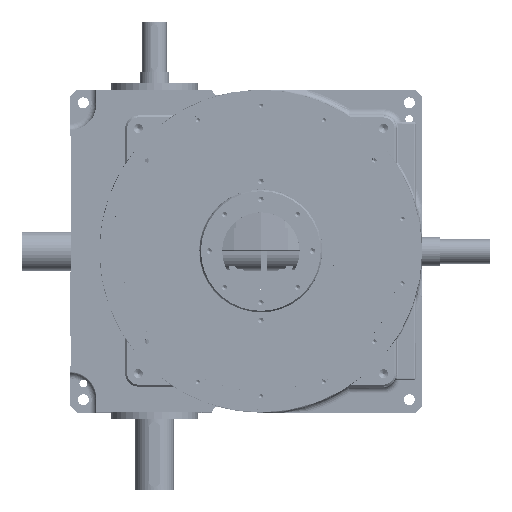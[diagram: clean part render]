
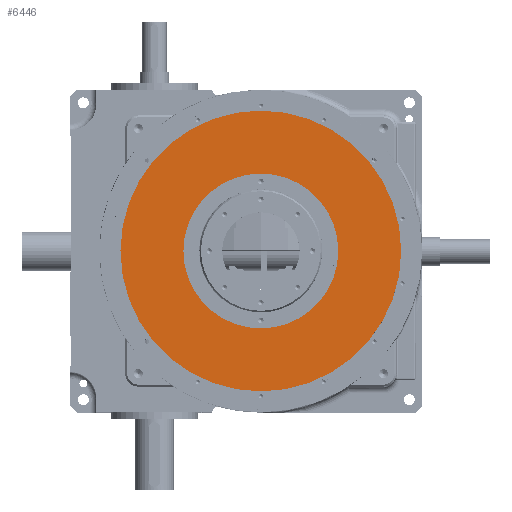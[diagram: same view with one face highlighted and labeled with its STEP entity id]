
A CAD part, top view. The second image highlights one B-rep face of the part: STEP entity #6446.
In plain terms, the highlighted planar face has unit normal (0, 0, 1) as drawn and (0, 1, 0) by its records, which use the part's own axes.
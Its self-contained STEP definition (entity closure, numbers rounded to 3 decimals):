
#6446 = ADVANCED_FACE( '', ( #13614, #13615 ), #13616, .F. );
#13614 = FACE_OUTER_BOUND( '', #22314, .T. );
#13615 = FACE_BOUND( '', #22315, .T. );
#13616 = PLANE( '', #22316 );
#22314 = EDGE_LOOP( '', ( #40420 ) );
#22315 = EDGE_LOOP( '', ( #40421 ) );
#22316 = AXIS2_PLACEMENT_3D( '', #40422, #40423, #40424 );
#40420 = ORIENTED_EDGE( '', *, *, #46495, .F. );
#40421 = ORIENTED_EDGE( '', *, *, #50251, .T. );
#40422 = CARTESIAN_POINT( '', ( -115., 68., 0. ) );
#40423 = DIRECTION( '', ( 0., -1., 0. ) );
#40424 = DIRECTION( '', ( 1., 0., 0. ) );
#46495 = EDGE_CURVE( '', #54346, #54346, #54347, .T. );
#50251 = EDGE_CURVE( '', #60255, #60255, #60256, .T. );
#54346 = VERTEX_POINT( '', #67330 );
#54347 = CIRCLE( '', #67331, 217.5 );
#60255 = VERTEX_POINT( '', #90579 );
#60256 = CIRCLE( '', #90580, 120. );
#67330 = CARTESIAN_POINT( '', ( 217.5, 68., 0. ) );
#67331 = AXIS2_PLACEMENT_3D( '', #101019, #101020, #101021 );
#90579 = CARTESIAN_POINT( '', ( -120., 68., 0. ) );
#90580 = AXIS2_PLACEMENT_3D( '', #103742, #103743, #103744 );
#101019 = CARTESIAN_POINT( '', ( 0., 68., 0. ) );
#101020 = DIRECTION( '', ( 0., -1., 0. ) );
#101021 = DIRECTION( '', ( 1., 0., 0. ) );
#103742 = CARTESIAN_POINT( '', ( 0., 68., 0. ) );
#103743 = DIRECTION( '', ( 0., -1., 0. ) );
#103744 = DIRECTION( '', ( -1., 0., 0. ) );
